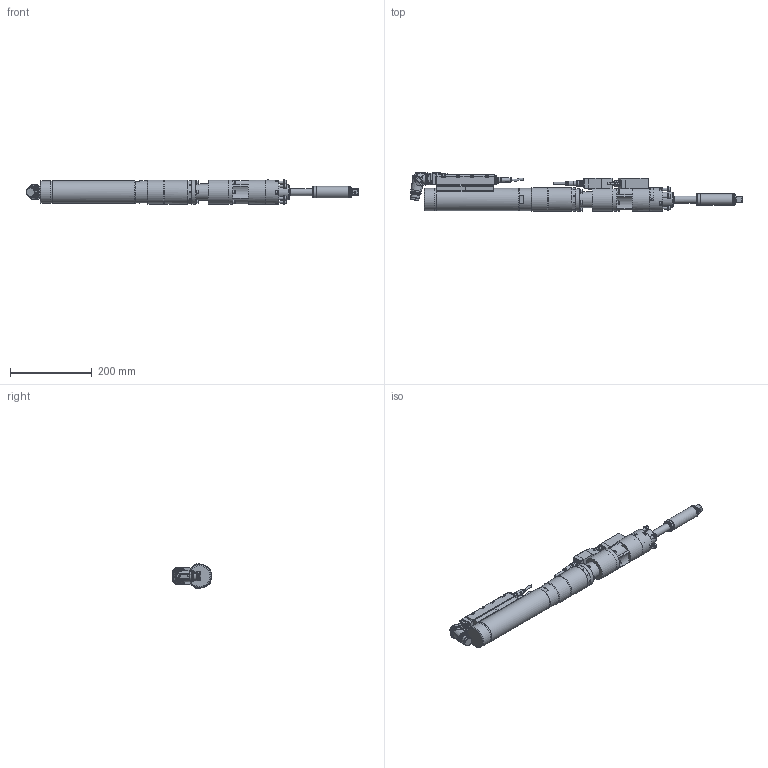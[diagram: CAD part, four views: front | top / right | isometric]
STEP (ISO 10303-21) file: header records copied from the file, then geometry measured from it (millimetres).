
FILE_DESCRIPTION (( 'STEP AP214' ), '1' );
FILE_NAME ('70082469_ESX227ZWRX270DWAX270AZX250.STEP', '2016-10-27T09:08:48', ( 'admin' ), ( '' ), 'SwSTEP 2.0', 'SolidWorks 2014', '' );
FILE_SCHEMA (( 'AUTOMOTIVE_DESIGN' ));
Length unit declared in the file: millimetre
Products named in the file (12): 7004768_3; 70082371; 70082353; 70082333; 70082307_ESX227_Standard_Winkel_2; 70082293_2; 70057493_Standard_winkel; 70057493_4; 70057493_3; 70057493_2; 70082307; 70082469_ESX227ZWRX270DWAX270AZX250
Assembly tree (12 placements, depth 4):
  70082469_ESX227ZWRX270DWAX270AZX250
    70082307_ESX227_Standard_Winkel_2
      70082307
      70057493_Standard_winkel
        70057493_2
        70057493_3
        70057493_4
      70082293_2  x2
    70082333
    70082353
    70082371
    7004768_3
Bounding box: 811.16 x 95.14 x 60.35 mm (x, y, z)
Volume: 1870442.2 mm3; surface area: 248449.1 mm2
Topology: 14 solids, 14 shells, 3179 faces, 8222 edges, 5323 vertices
Faces by surface type: plane 1549, cylinder 885, cone 383, bspline 270, torus 85, sphere 7
Full cylindrical faces by diameter (mm): 0.5 x14, 0.57 x14, 1.6 x3, 2 x3, 2.5 x1, 3 x4, 4.2 x16, 4.5 x1, 4.9 x5, 5 x50, 5.5 x12, 6 x7, 8.459 x2, 8.5 x15, 9 x18, 9.5 x1, 9.7 x1, 10 x5, 11.08 x2, 11.7 x1, 12 x6, 12.3 x2, 13 x1, 14 x5, 14.5 x2, 17.3 x1, 17.4 x1, 17.5 x2, 20 x2, 21.15 x1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
Entity records: 104783 total; most frequent: CARTESIAN_POINT 33587, ORIENTED_EDGE 14516, DIRECTION 13077, EDGE_CURVE 7258, VERTEX_POINT 4931, AXIS2_PLACEMENT_3D 4902, EDGE_LOOP 3761, FACE_OUTER_BOUND 3339
